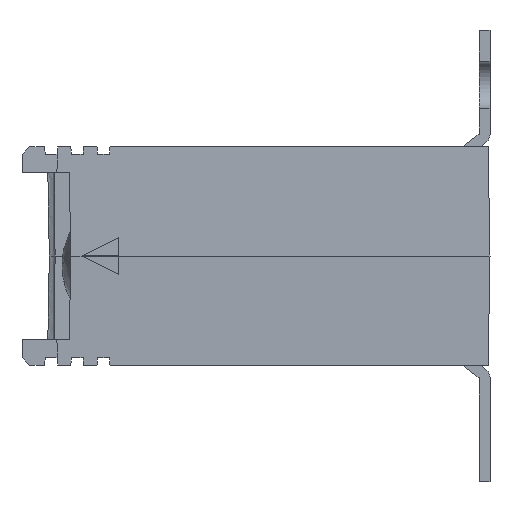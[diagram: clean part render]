
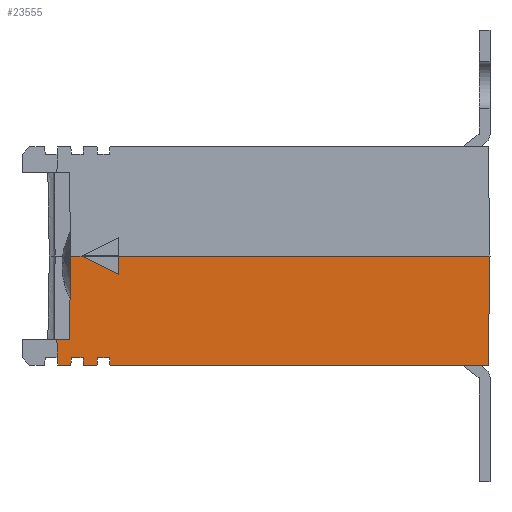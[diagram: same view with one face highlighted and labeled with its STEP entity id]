
A CAD part, left-side view. The second image highlights one B-rep face of the part: STEP entity #23555.
In plain terms, the highlighted planar face has unit normal (-1, 0, -0.018).
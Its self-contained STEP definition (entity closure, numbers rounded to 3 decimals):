
#1640=PLANE('',#24931);
#2813=LINE('',#33139,#5357);
#2814=LINE('',#33141,#5358);
#2815=LINE('',#33143,#5359);
#2816=LINE('',#33145,#5360);
#2817=LINE('',#33147,#5361);
#2818=LINE('',#33149,#5362);
#2819=LINE('',#33151,#5363);
#2820=LINE('',#33153,#5364);
#2821=LINE('',#33155,#5365);
#2822=LINE('',#33157,#5366);
#2823=LINE('',#33159,#5367);
#2824=LINE('',#33161,#5368);
#2825=LINE('',#33163,#5369);
#2826=LINE('',#33165,#5370);
#2827=LINE('',#33167,#5371);
#2828=LINE('',#33169,#5372);
#2829=LINE('',#33171,#5373);
#2830=LINE('',#33172,#5374);
#5357=VECTOR('',#26650,1000.);
#5358=VECTOR('',#26651,1000.);
#5359=VECTOR('',#26652,1000.);
#5360=VECTOR('',#26653,1000.);
#5361=VECTOR('',#26654,1000.);
#5362=VECTOR('',#26655,1000.);
#5363=VECTOR('',#26656,1000.);
#5364=VECTOR('',#26657,1000.);
#5365=VECTOR('',#26658,1000.);
#5366=VECTOR('',#26659,1000.);
#5367=VECTOR('',#26660,1000.);
#5368=VECTOR('',#26661,1000.);
#5369=VECTOR('',#26662,1000.);
#5370=VECTOR('',#26663,1000.);
#5371=VECTOR('',#26664,1000.);
#5372=VECTOR('',#26665,1000.);
#5373=VECTOR('',#26666,1000.);
#5374=VECTOR('',#26667,1000.);
#7819=FACE_OUTER_BOUND('',#9120,.T.);
#9120=EDGE_LOOP('',(#17514,#17515,#17516,#17517,#17518,#17519,#17520,#17521,
#17522,#17523,#17524,#17525,#17526,#17527,#17528,#17529,#17530,#17531));
#11623=VERTEX_POINT('',#33137);
#11624=VERTEX_POINT('',#33138);
#11625=VERTEX_POINT('',#33140);
#11626=VERTEX_POINT('',#33142);
#11627=VERTEX_POINT('',#33144);
#11628=VERTEX_POINT('',#33146);
#11629=VERTEX_POINT('',#33148);
#11630=VERTEX_POINT('',#33150);
#11631=VERTEX_POINT('',#33152);
#11632=VERTEX_POINT('',#33154);
#11633=VERTEX_POINT('',#33156);
#11634=VERTEX_POINT('',#33158);
#11635=VERTEX_POINT('',#33160);
#11636=VERTEX_POINT('',#33162);
#11637=VERTEX_POINT('',#33164);
#11638=VERTEX_POINT('',#33166);
#11639=VERTEX_POINT('',#33168);
#11640=VERTEX_POINT('',#33170);
#13928=EDGE_CURVE('',#11623,#11624,#2813,.T.);
#13929=EDGE_CURVE('',#11625,#11623,#2814,.T.);
#13930=EDGE_CURVE('',#11626,#11625,#2815,.T.);
#13931=EDGE_CURVE('',#11627,#11626,#2816,.T.);
#13932=EDGE_CURVE('',#11628,#11627,#2817,.T.);
#13933=EDGE_CURVE('',#11629,#11628,#2818,.T.);
#13934=EDGE_CURVE('',#11630,#11629,#2819,.T.);
#13935=EDGE_CURVE('',#11631,#11630,#2820,.T.);
#13936=EDGE_CURVE('',#11632,#11631,#2821,.T.);
#13937=EDGE_CURVE('',#11633,#11632,#2822,.T.);
#13938=EDGE_CURVE('',#11634,#11633,#2823,.T.);
#13939=EDGE_CURVE('',#11635,#11634,#2824,.T.);
#13940=EDGE_CURVE('',#11636,#11635,#2825,.T.);
#13941=EDGE_CURVE('',#11636,#11637,#2826,.T.);
#13942=EDGE_CURVE('',#11638,#11637,#2827,.T.);
#13943=EDGE_CURVE('',#11639,#11638,#2828,.T.);
#13944=EDGE_CURVE('',#11640,#11639,#2829,.T.);
#13945=EDGE_CURVE('',#11624,#11640,#2830,.T.);
#17514=ORIENTED_EDGE('',*,*,#13928,.F.);
#17515=ORIENTED_EDGE('',*,*,#13929,.F.);
#17516=ORIENTED_EDGE('',*,*,#13930,.F.);
#17517=ORIENTED_EDGE('',*,*,#13931,.F.);
#17518=ORIENTED_EDGE('',*,*,#13932,.F.);
#17519=ORIENTED_EDGE('',*,*,#13933,.F.);
#17520=ORIENTED_EDGE('',*,*,#13934,.F.);
#17521=ORIENTED_EDGE('',*,*,#13935,.F.);
#17522=ORIENTED_EDGE('',*,*,#13936,.F.);
#17523=ORIENTED_EDGE('',*,*,#13937,.F.);
#17524=ORIENTED_EDGE('',*,*,#13938,.F.);
#17525=ORIENTED_EDGE('',*,*,#13939,.F.);
#17526=ORIENTED_EDGE('',*,*,#13940,.F.);
#17527=ORIENTED_EDGE('',*,*,#13941,.T.);
#17528=ORIENTED_EDGE('',*,*,#13942,.F.);
#17529=ORIENTED_EDGE('',*,*,#13943,.F.);
#17530=ORIENTED_EDGE('',*,*,#13944,.F.);
#17531=ORIENTED_EDGE('',*,*,#13945,.F.);
#23555=ADVANCED_FACE('',(#7819),#1640,.T.);
#24931=AXIS2_PLACEMENT_3D('',#33136,#26648,#26649);
#26648=DIRECTION('center_axis',(-1.,0.,
-0.017));
#26649=DIRECTION('ref_axis',(-0.017,0.,
1.));
#26650=DIRECTION('',(-0.017,-0.017,1.));
#26651=DIRECTION('',(0.,-1.,0.));
#26652=DIRECTION('',(-0.017,0.017,1.));
#26653=DIRECTION('',(-0.017,0.087,0.996));
#26654=DIRECTION('',(0.,1.,0.));
#26655=DIRECTION('',(0.017,0.087,-0.996));
#26656=DIRECTION('',(0.,1.,0.));
#26657=DIRECTION('',(-0.017,0.087,0.996));
#26658=DIRECTION('',(0.,1.,0.));
#26659=DIRECTION('',(0.017,0.087,-0.996));
#26660=DIRECTION('',(0.,1.,0.));
#26661=DIRECTION('',(-0.017,0.087,0.996));
#26662=DIRECTION('',(0.,1.,0.));
#26663=DIRECTION('',(-0.017,-0.017,1.));
#26664=DIRECTION('',(0.,-1.,0.));
#26665=DIRECTION('',(-0.017,0.,1.));
#26666=DIRECTION('',(0.008,-0.894,-0.447));
#26667=DIRECTION('',(0.,-1.,0.));
#33136=CARTESIAN_POINT('Origin',(-22.,32.7,0.));
#33137=CARTESIAN_POINT('',(-21.799,30.799,-11.5));
#33138=CARTESIAN_POINT('',(-22.,30.599,0.));
#33139=CARTESIAN_POINT('',(-21.999,30.599,-0.037));
#33140=CARTESIAN_POINT('',(-21.799,32.499,-11.5));
#33141=CARTESIAN_POINT('',(-21.799,32.7,-11.5));
#33142=CARTESIAN_POINT('',(-21.748,32.448,-14.455));
#33143=CARTESIAN_POINT('',(-21.999,32.699,-0.049));
#33144=CARTESIAN_POINT('',(-21.738,32.4,-15.));
#33145=CARTESIAN_POINT('',(-21.998,33.705,-0.088));
#33146=CARTESIAN_POINT('',(-21.738,30.6,-15.));
#33147=CARTESIAN_POINT('',(-21.738,32.7,-15.));
#33148=CARTESIAN_POINT('',(-21.756,30.513,-14.));
#33149=CARTESIAN_POINT('',(-21.995,29.314,-0.296));
#33150=CARTESIAN_POINT('',(-21.756,28.887,-14.));
#33151=CARTESIAN_POINT('',(-21.756,32.7,-14.));
#33152=CARTESIAN_POINT('',(-21.738,28.8,-15.));
#33153=CARTESIAN_POINT('',(-22.004,30.132,0.225));
#33154=CARTESIAN_POINT('',(-21.738,27.,-15.));
#33155=CARTESIAN_POINT('',(-21.738,32.7,-15.));
#33156=CARTESIAN_POINT('',(-21.756,26.913,-14.));
#33157=CARTESIAN_POINT('',(-21.989,25.741,-0.609));
#33158=CARTESIAN_POINT('',(-21.756,25.287,-14.));
#33159=CARTESIAN_POINT('',(-21.756,32.7,-14.));
#33160=CARTESIAN_POINT('',(-21.738,25.2,-15.));
#33161=CARTESIAN_POINT('',(-22.009,26.559,0.537));
#33162=CARTESIAN_POINT('',(-21.738,-26.738,-15.));
#33163=CARTESIAN_POINT('',(-21.738,32.7,-15.));
#33164=CARTESIAN_POINT('',(-22.,-27.,0.));
#33165=CARTESIAN_POINT('',(-21.982,-26.982,-1.041));
#33166=CARTESIAN_POINT('',(-22.,24.049,0.));
#33167=CARTESIAN_POINT('',(-22.,32.7,0.));
#33168=CARTESIAN_POINT('',(-21.956,24.049,-2.5));
#33169=CARTESIAN_POINT('',(-21.956,24.049,-2.5));
#33170=CARTESIAN_POINT('',(-22.,29.049,0.));
#33171=CARTESIAN_POINT('',(-22.,29.049,0.));
#33172=CARTESIAN_POINT('',(-22.,32.7,0.));
